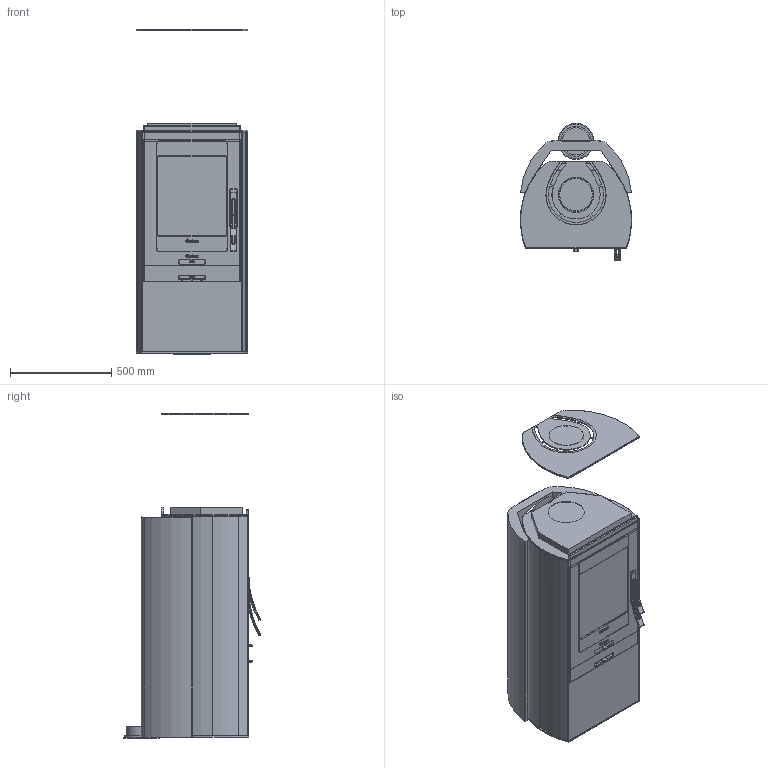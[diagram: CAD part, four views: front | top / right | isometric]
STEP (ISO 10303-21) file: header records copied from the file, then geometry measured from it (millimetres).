
FILE_DESCRIPTION( ( 'Unknown' ), '1' );
FILE_NAME( 'C:/Users/larsha/AppData/Roaming/Unigraphics Solutions/Solid Edge/Insight/insight/insight/interior models/C35Low Plate Assembly.stp', 'Unknown', ( 'Unknown' ), ( 'Unknown' ), 'PSStep 13.0', 'Unknown', ' ' );
FILE_SCHEMA( ( 'AUTOMOTIVE_DESIGN { 1 0 10303 214 1 1 1 1 }' ) );
Length unit declared in the file: millimetre
Products named in the file (24): Assem1; Side Glass C35Low; Lattice H34 H35; Plate For Sideglass C35Low; Insert H30; Rear Lid H34 H35; Vermiculite H30; Foot C35Low; Glass H30; Lid; Lid Lattice H34 H35; Fire H30; Bottom Cast Iron H30; Connection; Inside Shielding H35; Glass Top H35; Side Glass H35; Surround set plate C35Low
Bounding box: 549.63 x 679.26 x 1608 mm (x, y, z)
Volume: 400744389.4 mm3; surface area: 21220163.2 mm2
Topology: 48 solids, 48 shells, 4027 faces, 10035 edges, 6141 vertices
Faces by surface type: plane 1601, cylinder 1110, bspline 610, extrusion 332, torus 284, sphere 90
Full cylindrical faces by diameter (mm): 2.382 x12, 65 x2, 118 x2, 120 x2, 134 x3, 150 x3, 160 x2, 168 x2, 170 x7, 175 x2, 178 x3, 180 x2
Entity records: 115101 total; most frequent: CARTESIAN_POINT 54261, ORIENTED_EDGE 9754, DIRECTION 8401, EDGE_CURVE 4877, VERTEX_POINT 3036, AXIS2_PLACEMENT_3D 3028, VECTOR 2345, LINE 2179
